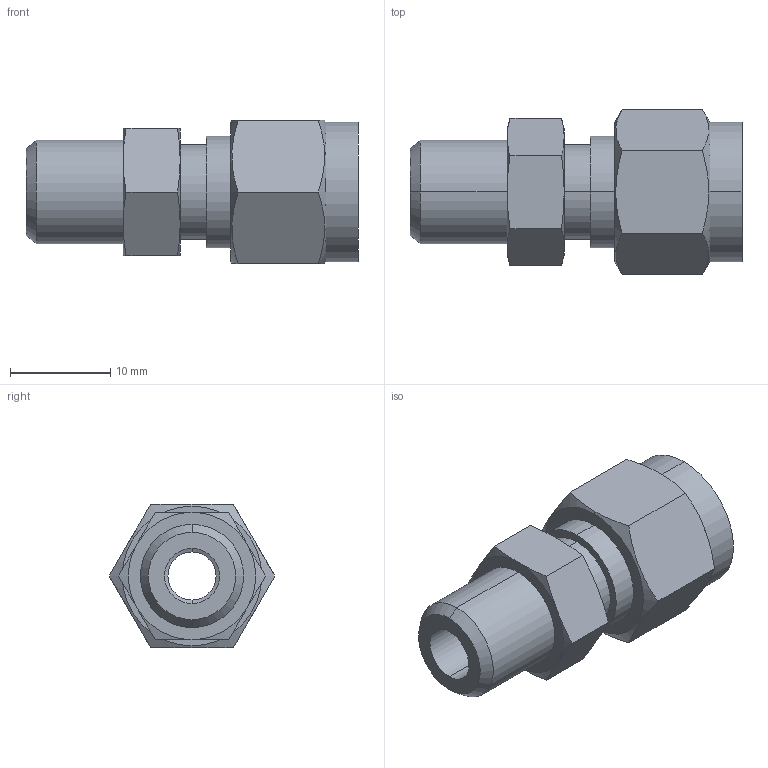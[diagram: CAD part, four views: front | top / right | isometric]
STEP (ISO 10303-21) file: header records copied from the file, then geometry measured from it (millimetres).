
FILE_DESCRIPTION (( 'STEP AP203' ), '1' );
FILE_NAME ('DCB04-02 SS.STEP', '2009-09-08T04:47:09', ( ' ' ), ( '' ), 'SwSTEP 2.0', 'SolidWorks 2008', '' );
FILE_SCHEMA (( 'CONFIG_CONTROL_DESIGN' ));
Length unit declared in the file: millimetre
Products named in the file (1): DCB04-02 SS
Bounding box: 33.1 x 16.5 x 14.29 mm (x, y, z)
Volume: 3304.2 mm3; surface area: 2331.5 mm2
Topology: 1 solids, 1 shells, 53 faces, 118 edges, 72 vertices
Faces by surface type: cone 20, plane 19, cylinder 14
Entity records: 1665 total; most frequent: CARTESIAN_POINT 452, ORIENTED_EDGE 236, DIRECTION 230, EDGE_CURVE 118, AXIS2_PLACEMENT_3D 98, VERTEX_POINT 72, EDGE_LOOP 60, ADVANCED_FACE 53
